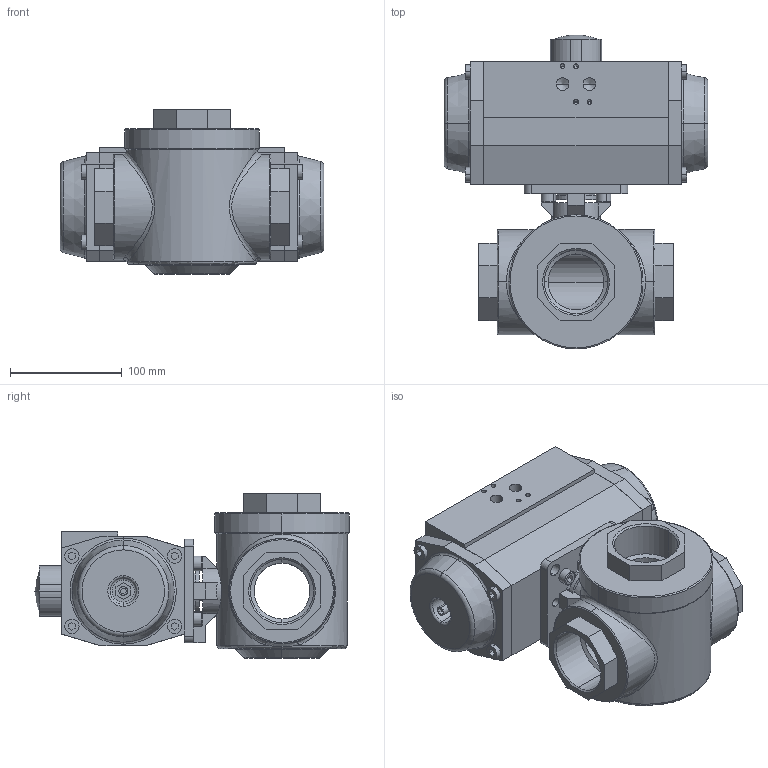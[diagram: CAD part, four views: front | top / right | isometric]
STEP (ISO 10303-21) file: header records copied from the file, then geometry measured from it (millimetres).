
FILE_DESCRIPTION (( 'STEP AP214' ), '1' );
FILE_NAME ('S57D DN50 G2 HB FB + AP3.5D.STEP', '2012-04-23T13:24:41', ( '' ), ( '' ), 'SwSTEP 2.0', 'SolidWorks 2011', '' );
FILE_SCHEMA (( 'AUTOMOTIVE_DESIGN' ));
Length unit declared in the file: millimetre
Products named in the file (4): DIN 912 M8 x 16 --- 16N_DIN 912 M8 x 16 --- 16N; AP3.5_Default<As Machined>; S57D DN50-G2 FB; S57D DN50 G2 HB FB + AP3.5D
Assembly tree (6 placements, depth 2):
  S57D DN50 G2 HB FB + AP3.5D
    DIN 912 M8 x 16 --- 16N_DIN 912 M8 x 16 --- 16N  x4
    AP3.5_Default<As Machined>
    S57D DN50-G2 FB
Bounding box: 236 x 280.99 x 147 mm (x, y, z)
Volume: 3630019.9 mm3; surface area: 286728.3 mm2
Topology: 13 solids, 13 shells, 554 faces, 1344 edges, 833 vertices
Faces by surface type: plane 299, cylinder 141, cone 62, torus 46, bspline 4, sphere 2
Entity records: 16878 total; most frequent: CARTESIAN_POINT 4274, DIRECTION 2426, ORIENTED_EDGE 2280, EDGE_CURVE 1140, AXIS2_PLACEMENT_3D 840, VECTOR 746, LINE 746, VERTEX_POINT 734
